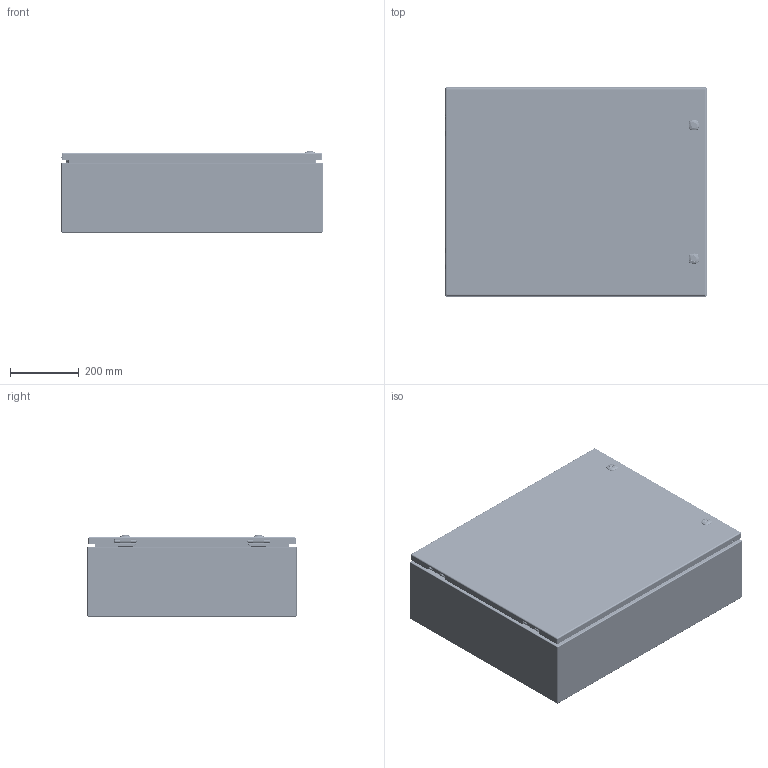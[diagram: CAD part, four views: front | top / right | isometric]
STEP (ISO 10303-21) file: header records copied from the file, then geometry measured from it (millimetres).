
FILE_DESCRIPTION(/* description */ ('5412ES 24" x 30" x 8" Assembly'),/* implementation_level */ '2;1');
FILE_NAME(/* name */ 'C:\Vault_Workspace\Inventor_Dwg\BoxCad\Result\5412ESB243008\e-mail\3D\5412ESB243008.stp',/* time_stamp */ '2022-03-15T19:38:25-04:00',/* author */ ('BoxCad'),/* organization */ (''),/* preprocessor_version */ 'ST-DEVELOPER v18.1',/* originating_system */ 'Autodesk Inventor 2020',/* authorisation */ '');
FILE_SCHEMA (('AUTOMOTIVE_DESIGN { 1 0 10303 214 3 1 1 }'));
Products named in the file (44): 5412ESB243008; 5412ESB243008B; 5412ESB243008B-P; STK-Q-16005; STUD_M6 x 16mm; STK-Q-07610; 881SP3024G; 881SP3024G-P; STK-Q-07310; 5412ESB243008C; 5412ESB243008C-P; 5412ESB243008G; STK-K-09800; STK-K-09800-2; STK-Q-33014; STK-Q-90398; STK-Q-40095; STK-Q-63410; STK-Q-16055; STK-Q-46020-24; STK-Q-07220-1; STK-Q-07220-2; STK-Q-07220-3; STK-Q-07220-4; STK-Q-07220-A; STK-Q-07220-B; STK-P-03820R; STK-S-00100; STK-A-880SCQ4-SL-1; STK-A-880SCQ4-SL-2; STK-Q-78110; STK-Q-78120; STK-Q-78145; STK-Q-03200; STK-Q-78125; STK-Q-78141; STK-Q-90390; STK-Q-78160; STK-Q-04050-07; STK-Q-04050-07-2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
Assembly tree (81 placements, depth 4):
  5412ESB243008
    5412ESB243008B
      5412ESB243008B-P
      STK-Q-16005  x4
      STK-P-03820R
      STUD_M6 x 16mm
    STK-Q-07610  x4
    881SP3024G
      881SP3024G-P
    STK-Q-07310  x4
    5412ESB243008C
      5412ESB243008C-P
      5412ESB243008G
      STK-K-09800
        STK-Q-33014
        STK-Q-90398
        STK-Q-40095  x2
        STK-Q-63410  x2
      STK-K-09800-2
        STK-Q-33014
        STK-Q-90398
        STK-Q-40095  x2
        STK-Q-63410  x2
      STK-Q-16055  x4
      STK-Q-46020-24  x2
      STK-Q-07220-1
        STK-Q-07220-A
        STK-Q-07220-B
      STK-Q-07220-2
        STK-Q-07220-A
        STK-Q-07220-B
      STK-Q-07220-3
        STK-Q-07220-A
        STK-Q-07220-B
      STK-Q-07220-4
        STK-Q-07220-A
        STK-Q-07220-B
      STK-P-03820R
      STK-S-00100
      STK-A-880SCQ4-SL-1
        STK-Q-78110
        STK-Q-78120
        STK-Q-78145
        STK-Q-03200
        STK-Q-78125
        STK-Q-78141
        STK-Q-90390
        STK-Q-78160
      STK-A-880SCQ4-SL-2
        STK-Q-78110
        STK-Q-78120
        STK-Q-78145
        STK-Q-03200
        STK-Q-78125
        STK-Q-78141
        STK-Q-90390
        STK-Q-78160
    STK-Q-04050-07
      STK-Q-04050-07-P
      STK-Q-04050-N
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Bounding box: 762.07 x 609.6 x 236.35 mm (x, y, z)
Volume: 3591877.5 mm3; surface area: 4400076.7 mm2
Topology: 64 solids, 64 shells, 9654 faces, 25910 edges, 16453 vertices
Faces by surface type: bspline 3404, plane 2761, cylinder 2498, torus 631, sphere 184, cone 176
Full cylindrical faces by diameter (mm): 0 x1, 0.75 x9, 0.762 x9, 1 x8, 1.1 x8, 3.2 x4, 4.191 x40, 4.5 x4, 4.521 x8, 4.75 x2, 4.85 x16, 4.95 x4, 5 x4, 5.1 x36, 5.156 x2, 5.6 x2, 5.9 x29, 6.015 x40, 6.65 x4, 6.8 x4, 6.85 x16, 7.3 x2, 7.366 x4, 7.9 x8, 8 x12, 8.382 x2, 9.5 x4, 9.6 x2, 9.906 x4, 10 x2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
Entity records: 154814 total; most frequent: CARTESIAN_POINT 63860, ORIENTED_EDGE 20818, DIRECTION 15127, EDGE_CURVE 10409, VERTEX_POINT 6591, AXIS2_PLACEMENT_3D 5546, EDGE_LOOP 4236, LINE 4035
